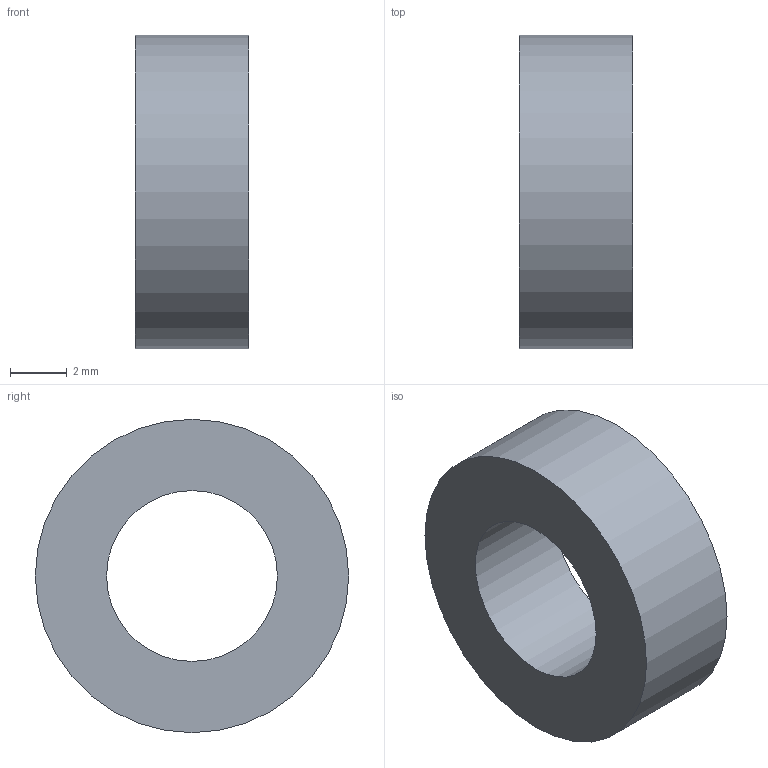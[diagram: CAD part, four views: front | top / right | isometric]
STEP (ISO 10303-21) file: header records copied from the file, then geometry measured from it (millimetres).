
FILE_DESCRIPTION(('Open CASCADE Model'),'2;1');
FILE_NAME('Open CASCADE Shape Model','2026-10-25T05:18:02',('Author'),( 'Open CASCADE'),'Open CASCADE STEP processor 7.9','Open CASCADE 7.9' ,'Unknown');
FILE_SCHEMA(('AUTOMOTIVE_DESIGN { 1 0 10303 214 1 1 1 1 }'));
Length unit declared in the file: millimetre
Products named in the file (1): Open CASCADE STEP translator 7.9 129
Bounding box: 4 x 11 x 11 mm (x, y, z)
Volume: 267 mm3; surface area: 347.1 mm2
Topology: 1 solids, 1 shells, 4 faces, 6 edges, 4 vertices
Faces by surface type: cylinder 2, plane 2
Full cylindrical faces by diameter (mm): 6 x1, 11 x1
Entity records: 186 total; most frequent: DIRECTION 32, CARTESIAN_POINT 27, ORIENTED_EDGE 12, PCURVE 12, DEFINITIONAL_REPRESENTATION 12, LINE 10, VECTOR 10, AXIS2_PLACEMENT_3D 9
